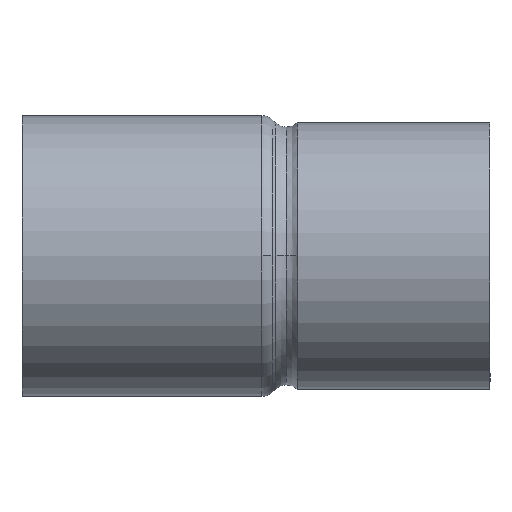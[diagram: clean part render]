
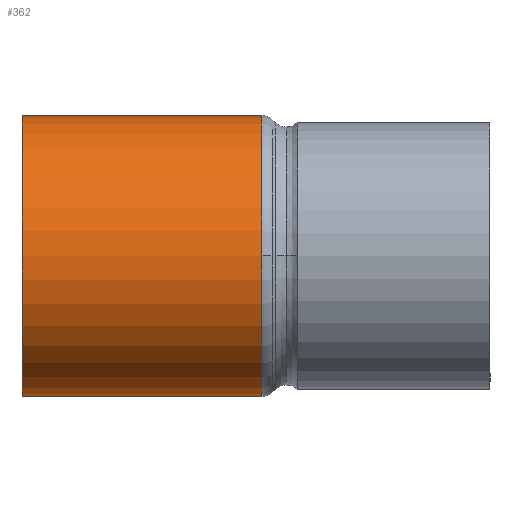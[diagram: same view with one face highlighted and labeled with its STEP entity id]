
A CAD part, top view. The second image highlights one B-rep face of the part: STEP entity #362.
In plain terms, the highlighted cylindrical face has radius 9 mm (diameter 18 mm), a partial arc.
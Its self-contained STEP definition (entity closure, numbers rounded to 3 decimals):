
#312=CARTESIAN_POINT('',(7.687,0.0,0.0));
#313=DIRECTION('',(1.0,0.0,0.0));
#314=DIRECTION('',(0.0,1.0,0.0));
#315=AXIS2_PLACEMENT_3D('',#312,#313,#314);
#316=CYLINDRICAL_SURFACE('',#315,9.);
#317=CARTESIAN_POINT('',(0.,9.0,0.0));
#318=VERTEX_POINT('',#317);
#319=CARTESIAN_POINT('',(15.373,9.,0.0));
#320=VERTEX_POINT('',#319);
#321=CARTESIAN_POINT('',(0.,9.0,0.0));
#322=DIRECTION('',(1.0,0.0,0.0));
#323=VECTOR('',#322,15.373);
#324=LINE('',#321,#323);
#325=EDGE_CURVE('',#318,#320,#324,.T.);
#326=ORIENTED_EDGE('',*,*,#325,.F.);
#327=CARTESIAN_POINT('',(0.,-9.0,0.));
#328=VERTEX_POINT('',#327);
#329=CARTESIAN_POINT('',(0.,0.0,0.0));
#330=DIRECTION('',(1.0,0.0,0.0));
#331=DIRECTION('',(0.0,1.0,0.0));
#332=AXIS2_PLACEMENT_3D('',#329,#330,#331);
#333=CIRCLE('',#332,9.0);
#334=EDGE_CURVE('',#318,#328,#333,.T.);
#335=ORIENTED_EDGE('',*,*,#334,.T.);
#336=CARTESIAN_POINT('',(15.373,-9.,0.));
#337=VERTEX_POINT('',#336);
#338=CARTESIAN_POINT('',(15.373,-9.,0.));
#339=DIRECTION('',(-1.0,0.0,0.0));
#340=VECTOR('',#339,15.373);
#341=LINE('',#338,#340);
#342=EDGE_CURVE('',#337,#328,#341,.T.);
#343=ORIENTED_EDGE('',*,*,#342,.F.);
#344=CARTESIAN_POINT('',(15.373,0.,9.));
#345=VERTEX_POINT('',#344);
#346=CARTESIAN_POINT('',(15.373,0.0,0.0));
#347=DIRECTION('',(1.0,0.0,0.0));
#348=DIRECTION('',(0.0,1.0,0.0));
#349=AXIS2_PLACEMENT_3D('',#346,#347,#348);
#350=CIRCLE('',#349,9.);
#351=EDGE_CURVE('',#345,#337,#350,.T.);
#352=ORIENTED_EDGE('',*,*,#351,.F.);
#353=CARTESIAN_POINT('',(15.373,0.0,0.0));
#354=DIRECTION('',(1.0,0.0,0.0));
#355=DIRECTION('',(0.0,1.0,0.0));
#356=AXIS2_PLACEMENT_3D('',#353,#354,#355);
#357=CIRCLE('',#356,9.);
#358=EDGE_CURVE('',#320,#345,#357,.T.);
#359=ORIENTED_EDGE('',*,*,#358,.F.);
#360=EDGE_LOOP('',(#326,#335,#343,#352,#359));
#361=FACE_OUTER_BOUND('',#360,.T.);
#362=ADVANCED_FACE('',(#361),#316,.T.);
